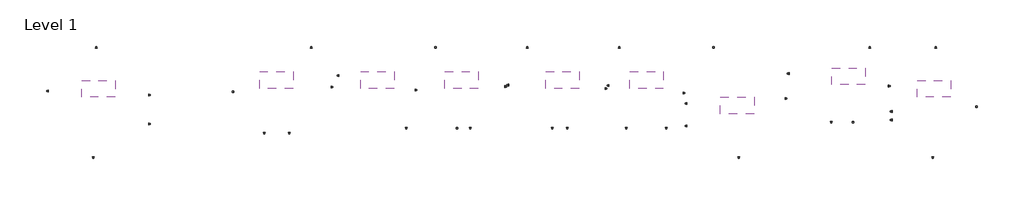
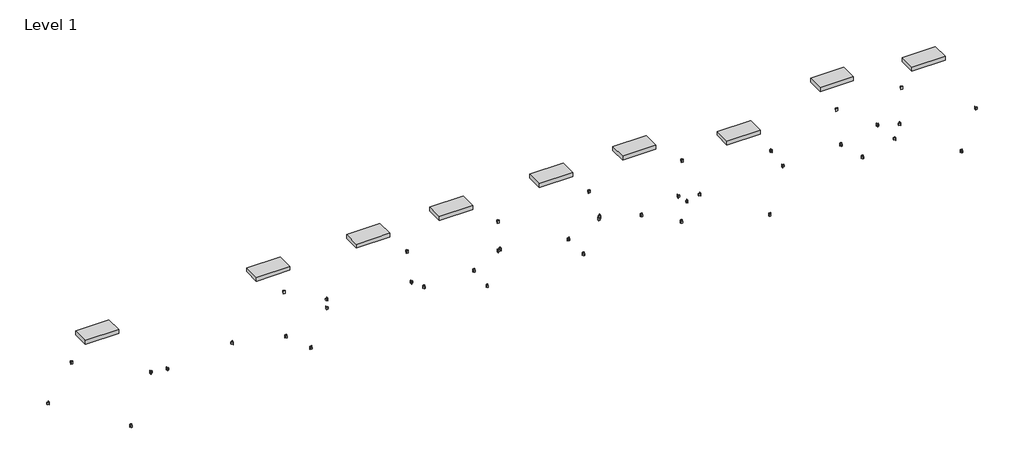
# One storey: 33 proxies, 9 light fixtures, 9 switching devices.
"""IFC4 building model written with IfcOpenShell, lengths in millimetres."""

from ifc_helpers import new_model, si_unit, origin, place, context, project, spatial, transform, mapped, element, save
from components import duplex_receptacle_standard_10251bba, troffer_corner_insert_2x4_2lamp_ce2b6327

model = new_model("IFC4")

# Units and contexts
model_context = context("Model", 3, world=origin())
ifc_project = project(units=[si_unit("LENGTHUNIT", "METRE", prefix="MILLI")], contexts=[model_context])

# Site, building, storey
site = spatial("IfcSite", under=ifc_project)
building = spatial("IfcBuilding", under=site)
storey = spatial("IfcBuildingStorey", under=building, Name="Level 1", Elevation=0.0)

# Proxies
placement = place(None, origin())
duplex_receptacle_standard_shape = duplex_receptacle_standard_10251bba(model_context)
element("IfcBuildingElementProxy", 1, Name="Duplex Receptacle : Standard", ObjectType="Duplex Receptacle : Standard", at=placement, inside=storey, context=model_context, shape_type="MappedRepresentation", body=[
    mapped(duplex_receptacle_standard_shape, transform((-26841.405561, 10083.9795737, 457.2), x_axis=(0.0, 1.0, 0.0), y_axis=(0.0, 0.0, 1.0), z_axis=(1.0, 0.0, 0.0))),
])
element("IfcBuildingElementProxy", 2, Name="Duplex Receptacle : Standard", ObjectType="Duplex Receptacle : Standard", at=placement, inside=storey, context=model_context, shape_type="MappedRepresentation", body=[
    mapped(duplex_receptacle_standard_shape, transform((-25204.9666385, 7694.2963778, 457.2), x_axis=(-1.0, 0.0, 0.0), y_axis=(0.0, 0.0, 1.0), z_axis=(0.0, 1.0, 0.0))),
])
element("IfcBuildingElementProxy", 3, Name="Duplex Receptacle : Standard", ObjectType="Duplex Receptacle : Standard", at=placement, inside=storey, context=model_context, shape_type="MappedRepresentation", body=[
    mapped(duplex_receptacle_standard_shape, transform((-23188.568061, 9940.7759008, 457.2), x_axis=(0.0, -1.0, 0.0), y_axis=(0.0, 0.0, 1.0), z_axis=(-1.0, 0.0, 0.0))),
])
element("IfcBuildingElementProxy", 4, Name="Duplex Receptacle : Standard", ObjectType="Duplex Receptacle : Standard", at=placement, inside=storey, context=model_context, shape_type="MappedRepresentation", body=[
    mapped(duplex_receptacle_standard_shape, transform((-25090.4037002, 11651.9338778, 457.2), x_axis=(1.0, 0.0, 0.0), y_axis=(0.0, 0.0, 1.0), z_axis=(0.0, -1.0, 0.0))),
])
element("IfcBuildingElementProxy", 5, Name="Duplex Receptacle : Standard", ObjectType="Duplex Receptacle : Standard", at=placement, inside=storey, context=model_context, shape_type="MappedRepresentation", body=[
    mapped(duplex_receptacle_standard_shape, transform((-20121.518061, 10059.969048, 457.2), x_axis=(0.0, 1.0, 0.0), y_axis=(0.0, 0.0, 1.0), z_axis=(1.0, 0.0, 0.0))),
])
element("IfcBuildingElementProxy", 6, Name="Duplex Receptacle : Standard", ObjectType="Duplex Receptacle : Standard", at=placement, inside=storey, context=model_context, shape_type="MappedRepresentation", body=[
    mapped(duplex_receptacle_standard_shape, transform((-18097.4089577, 8586.4713778, 457.2), x_axis=(-1.0, 0.0, 0.0), y_axis=(0.0, 0.0, 1.0), z_axis=(0.0, 1.0, 0.0))),
])
element("IfcBuildingElementProxy", 7, Name="Duplex Receptacle : Standard", ObjectType="Duplex Receptacle : Standard", at=placement, inside=storey, context=model_context, shape_type="MappedRepresentation", body=[
    mapped(duplex_receptacle_standard_shape, transform((-16586.155561, 10230.4172196, 457.2), x_axis=(0.0, -1.0, 0.0), y_axis=(0.0, 0.0, 1.0), z_axis=(-1.0, 0.0, 0.0))),
])
element("IfcBuildingElementProxy", 8, Name="Duplex Receptacle : Standard", ObjectType="Duplex Receptacle : Standard", at=placement, inside=storey, context=model_context, shape_type="MappedRepresentation", body=[
    mapped(duplex_receptacle_standard_shape, transform((-17301.9841568, 11651.9338778, 457.2), x_axis=(1.0, 0.0, 0.0), y_axis=(0.0, 0.0, 1.0), z_axis=(0.0, -1.0, 0.0))),
])
element("IfcBuildingElementProxy", 9, Name="Duplex Receptacle : Standard", ObjectType="Duplex Receptacle : Standard", at=placement, inside=storey, context=model_context, shape_type="MappedRepresentation", body=[
    mapped(duplex_receptacle_standard_shape, transform((-16309.930561, 10651.0789037, 457.2), x_axis=(0.0, 1.0, 0.0), y_axis=(0.0, 0.0, 1.0), z_axis=(1.0, 0.0, 0.0))),
])
element("IfcBuildingElementProxy", 10, Name="Duplex Receptacle : Standard", ObjectType="Duplex Receptacle : Standard", at=placement, inside=storey, context=model_context, shape_type="MappedRepresentation", body=[
    mapped(duplex_receptacle_standard_shape, transform((-13539.743061, 10124.0535866, 457.2), x_axis=(0.0, -1.0, 0.0), y_axis=(0.0, 0.0, 1.0), z_axis=(-1.0, 0.0, 0.0))),
])
element("IfcBuildingElementProxy", 11, Name="Duplex Receptacle : Standard", ObjectType="Duplex Receptacle : Standard", at=placement, inside=storey, context=model_context, shape_type="MappedRepresentation", body=[
    mapped(duplex_receptacle_standard_shape, transform((-12806.5245051, 11651.9338778, 457.2), x_axis=(1.0, 0.0, 0.0), y_axis=(0.0, 0.0, 1.0), z_axis=(0.0, -1.0, 0.0))),
])
element("IfcBuildingElementProxy", 12, Name="Duplex Receptacle : Standard", ObjectType="Duplex Receptacle : Standard", at=placement, inside=storey, context=model_context, shape_type="MappedRepresentation", body=[
    mapped(duplex_receptacle_standard_shape, transform((-10286.955561, 10256.7605197, 457.2), x_axis=(0.0, -1.0, 0.0), y_axis=(0.0, 0.0, 1.0), z_axis=(-1.0, 0.0, 0.0))),
])
element("IfcBuildingElementProxy", 13, Name="Duplex Receptacle : Standard", ObjectType="Duplex Receptacle : Standard", at=placement, inside=storey, context=model_context, shape_type="MappedRepresentation", body=[
    mapped(duplex_receptacle_standard_shape, transform((-11548.8226825, 8761.0963778, 457.2), x_axis=(-1.0, 0.0, 0.0), y_axis=(0.0, 0.0, 1.0), z_axis=(0.0, 1.0, 0.0))),
])
element("IfcBuildingElementProxy", 14, Name="Duplex Receptacle : Standard", ObjectType="Duplex Receptacle : Standard", at=placement, inside=storey, context=model_context, shape_type="MappedRepresentation", body=[
    mapped(duplex_receptacle_standard_shape, transform((-9478.3687644, 11651.9338778, 457.2), x_axis=(1.0, 0.0, 0.0), y_axis=(0.0, 0.0, 1.0), z_axis=(0.0, -1.0, 0.0))),
])
element("IfcBuildingElementProxy", 15, Name="Duplex Receptacle : Standard", ObjectType="Duplex Receptacle : Standard", at=placement, inside=storey, context=model_context, shape_type="MappedRepresentation", body=[
    mapped(duplex_receptacle_standard_shape, transform((-10163.130561, 10308.2801537, 457.2), x_axis=(0.0, 1.0, 0.0), y_axis=(0.0, 0.0, 1.0), z_axis=(1.0, 0.0, 0.0))),
])
element("IfcBuildingElementProxy", 16, Name="Duplex Receptacle : Standard", ObjectType="Duplex Receptacle : Standard", at=placement, inside=storey, context=model_context, shape_type="MappedRepresentation", body=[
    mapped(duplex_receptacle_standard_shape, transform((-8025.676875, 8761.0963778, 457.2), x_axis=(-1.0, 0.0, 0.0), y_axis=(0.0, 0.0, 1.0), z_axis=(0.0, 1.0, 0.0))),
])
element("IfcBuildingElementProxy", 17, Name="Duplex Receptacle : Standard", ObjectType="Duplex Receptacle : Standard", at=placement, inside=storey, context=model_context, shape_type="MappedRepresentation", body=[
    mapped(duplex_receptacle_standard_shape, transform((-6653.168061, 10183.4292353, 457.2), x_axis=(0.0, -1.0, 0.0), y_axis=(0.0, 0.0, 1.0), z_axis=(-1.0, 0.0, 0.0))),
])
element("IfcBuildingElementProxy", 18, Name="Duplex Receptacle : Standard", ObjectType="Duplex Receptacle : Standard", at=placement, inside=storey, context=model_context, shape_type="MappedRepresentation", body=[
    mapped(duplex_receptacle_standard_shape, transform((-6529.343061, 10292.780883, 457.2), x_axis=(0.0, 1.0, 0.0), y_axis=(0.0, 0.0, 1.0), z_axis=(1.0, 0.0, 0.0))),
])
element("IfcBuildingElementProxy", 19, Name="Duplex Receptacle : Standard", ObjectType="Duplex Receptacle : Standard", at=placement, inside=storey, context=model_context, shape_type="MappedRepresentation", body=[
    mapped(duplex_receptacle_standard_shape, transform((-3835.355561, 10013.3796213, 457.2), x_axis=(0.0, -1.0, 0.0), y_axis=(0.0, 0.0, 1.0), z_axis=(-1.0, 0.0, 0.0))),
])
element("IfcBuildingElementProxy", 20, Name="Duplex Receptacle : Standard", ObjectType="Duplex Receptacle : Standard", at=placement, inside=storey, context=model_context, shape_type="MappedRepresentation", body=[
    mapped(duplex_receptacle_standard_shape, transform((-4440.4941443, 8761.0963778, 457.2), x_axis=(-1.0, 0.0, 0.0), y_axis=(0.0, 0.0, 1.0), z_axis=(0.0, 1.0, 0.0))),
])
element("IfcBuildingElementProxy", 21, Name="Duplex Receptacle : Standard", ObjectType="Duplex Receptacle : Standard", at=placement, inside=storey, context=model_context, shape_type="MappedRepresentation", body=[
    mapped(duplex_receptacle_standard_shape, transform((-6144.9758606, 11651.9338778, 457.2), x_axis=(1.0, 0.0, 0.0), y_axis=(0.0, 0.0, 1.0), z_axis=(0.0, -1.0, 0.0))),
])
element("IfcBuildingElementProxy", 22, Name="Duplex Receptacle : Standard", ObjectType="Duplex Receptacle : Standard", at=placement, inside=storey, context=model_context, shape_type="MappedRepresentation", body=[
    mapped(duplex_receptacle_standard_shape, transform((-3711.530561, 9633.9383857, 457.2), x_axis=(0.0, 1.0, 0.0), y_axis=(0.0, 0.0, 1.0), z_axis=(1.0, 0.0, 0.0))),
])
element("IfcBuildingElementProxy", 23, Name="Duplex Receptacle : Standard", ObjectType="Duplex Receptacle : Standard", at=placement, inside=storey, context=model_context, shape_type="MappedRepresentation", body=[
    mapped(duplex_receptacle_standard_shape, transform((-1821.0264733, 7687.9463778, 457.2), x_axis=(-1.0, 0.0, 0.0), y_axis=(0.0, 0.0, 1.0), z_axis=(0.0, 1.0, 0.0))),
])
element("IfcBuildingElementProxy", 24, Name="Duplex Receptacle : Standard", ObjectType="Duplex Receptacle : Standard", at=placement, inside=storey, context=model_context, shape_type="MappedRepresentation", body=[
    mapped(duplex_receptacle_standard_shape, transform((-2735.7649944, 11651.9338778, 457.2), x_axis=(1.0, 0.0, 0.0), y_axis=(0.0, 0.0, 1.0), z_axis=(0.0, -1.0, 0.0))),
])
element("IfcBuildingElementProxy", 25, Name="Duplex Receptacle : Standard", ObjectType="Duplex Receptacle : Standard", at=placement, inside=storey, context=model_context, shape_type="MappedRepresentation", body=[
    mapped(duplex_receptacle_standard_shape, transform((-128.543061, 9808.1742944, 457.2), x_axis=(0.0, -1.0, 0.0), y_axis=(0.0, 0.0, 1.0), z_axis=(-1.0, 0.0, 0.0))),
])
element("IfcBuildingElementProxy", 26, Name="Duplex Receptacle : Standard", ObjectType="Duplex Receptacle : Standard", at=placement, inside=storey, context=model_context, shape_type="MappedRepresentation", body=[
    mapped(duplex_receptacle_standard_shape, transform((2317.0763601, 8976.9963778, 457.2), x_axis=(-1.0, 0.0, 0.0), y_axis=(0.0, 0.0, 1.0), z_axis=(0.0, 1.0, 0.0))),
])
element("IfcBuildingElementProxy", 27, Name="Duplex Receptacle : Standard", ObjectType="Duplex Receptacle : Standard", at=placement, inside=storey, context=model_context, shape_type="MappedRepresentation", body=[
    mapped(duplex_receptacle_standard_shape, transform((3605.256939, 10265.543555, 457.2), x_axis=(0.0, -1.0, 0.0), y_axis=(0.0, 0.0, 1.0), z_axis=(-1.0, 0.0, 0.0))),
])
element("IfcBuildingElementProxy", 28, Name="Duplex Receptacle : Standard", ObjectType="Duplex Receptacle : Standard", at=placement, inside=storey, context=model_context, shape_type="MappedRepresentation", body=[
    mapped(duplex_receptacle_standard_shape, transform((2926.9020408, 11651.9338778, 457.2), x_axis=(1.0, 0.0, 0.0), y_axis=(0.0, 0.0, 1.0), z_axis=(0.0, -1.0, 0.0))),
])
element("IfcBuildingElementProxy", 29, Name="Duplex Receptacle : Standard", ObjectType="Duplex Receptacle : Standard", at=placement, inside=storey, context=model_context, shape_type="MappedRepresentation", body=[
    mapped(duplex_receptacle_standard_shape, transform((-4.718061, 10722.9128155, 457.2), x_axis=(0.0, 1.0, 0.0), y_axis=(0.0, 0.0, 1.0), z_axis=(1.0, 0.0, 0.0))),
])
element("IfcBuildingElementProxy", 30, Name="Duplex Receptacle : Standard", ObjectType="Duplex Receptacle : Standard", at=placement, inside=storey, context=model_context, shape_type="MappedRepresentation", body=[
    mapped(duplex_receptacle_standard_shape, transform((5310.8304139, 11651.9338778, 457.2), x_axis=(1.0, 0.0, 0.0), y_axis=(0.0, 0.0, 1.0), z_axis=(0.0, -1.0, 0.0))),
])
element("IfcBuildingElementProxy", 31, Name="Duplex Receptacle : Standard", ObjectType="Duplex Receptacle : Standard", at=placement, inside=storey, context=model_context, shape_type="MappedRepresentation", body=[
    mapped(duplex_receptacle_standard_shape, transform((3729.081939, 9342.2021359, 457.2), x_axis=(0.0, 1.0, 0.0), y_axis=(0.0, 0.0, 1.0), z_axis=(1.0, 0.0, 0.0))),
])
element("IfcBuildingElementProxy", 32, Name="Duplex Receptacle : Standard", ObjectType="Duplex Receptacle : Standard", at=placement, inside=storey, context=model_context, shape_type="MappedRepresentation", body=[
    mapped(duplex_receptacle_standard_shape, transform((5201.9329709, 7687.9463778, 457.2), x_axis=(-1.0, 0.0, 0.0), y_axis=(0.0, 0.0, 1.0), z_axis=(0.0, 1.0, 0.0))),
])
element("IfcBuildingElementProxy", 33, Name="Duplex Receptacle : Standard", ObjectType="Duplex Receptacle : Standard", at=placement, inside=storey, context=model_context, shape_type="MappedRepresentation", body=[
    mapped(duplex_receptacle_standard_shape, transform((6772.319439, 9516.4380447, 457.2), x_axis=(0.0, -1.0, 0.0), y_axis=(0.0, 0.0, 1.0), z_axis=(-1.0, 0.0, 0.0))),
])

# Light fixtures
troffer_corner_insert_2x4_2lamp_shape = troffer_corner_insert_2x4_2lamp_ce2b6327(model_context)
element("IfcLightFixture", 34, ObjectType="Troffer Corner Insert : 2x4 2Lamp", at=placement, inside=storey, context=model_context, shape_type="MappedRepresentation", body=[
    mapped(troffer_corner_insert_2x4_2lamp_shape, transform((-5157.743061, 10481.1526278, 0.0), x_axis=(1.0, 0.0, 0.0), y_axis=(0.0, 1.0, 0.0), z_axis=(0.0, 0.0, 1.0))),
])
element("IfcLightFixture", 35, ObjectType="Troffer Corner Insert : 2x4 2Lamp", at=placement, inside=storey, context=model_context, shape_type="MappedRepresentation", body=[
    mapped(troffer_corner_insert_2x4_2lamp_shape, transform((-14911.343061, 10481.1526278, 0.0), x_axis=(1.0, 0.0, 0.0), y_axis=(0.0, 1.0, 0.0), z_axis=(0.0, 0.0, 1.0))),
])
element("IfcLightFixture", 36, ObjectType="Troffer Corner Insert : 2x4 3Lamp", at=placement, inside=storey, context=model_context, shape_type="MappedRepresentation", body=[
    mapped(troffer_corner_insert_2x4_2lamp_shape, transform((-25014.986811, 10166.0338778, 0.0), x_axis=(1.0, 0.0, 0.0), y_axis=(0.0, 1.0, 0.0), z_axis=(0.0, 0.0, 1.0))),
])
element("IfcLightFixture", 37, ObjectType="Troffer Corner Insert : 2x4 3Lamp", at=placement, inside=storey, context=model_context, shape_type="MappedRepresentation", body=[
    mapped(troffer_corner_insert_2x4_2lamp_shape, transform((-18568.943061, 10481.1526278, 0.0), x_axis=(1.0, 0.0, 0.0), y_axis=(0.0, 1.0, 0.0), z_axis=(0.0, 0.0, 1.0))),
])
element("IfcLightFixture", 38, ObjectType="Troffer Corner Insert : 2x4 3Lamp", at=placement, inside=storey, context=model_context, shape_type="MappedRepresentation", body=[
    mapped(troffer_corner_insert_2x4_2lamp_shape, transform((-11863.343061, 10481.1526278, 0.0), x_axis=(1.0, 0.0, 0.0), y_axis=(0.0, 1.0, 0.0), z_axis=(0.0, 0.0, 1.0))),
])
element("IfcLightFixture", 39, ObjectType="Troffer Corner Insert : 2x4 3Lamp", at=placement, inside=storey, context=model_context, shape_type="MappedRepresentation", body=[
    mapped(troffer_corner_insert_2x4_2lamp_shape, transform((-8205.743061, 10481.1526278, 0.0), x_axis=(1.0, 0.0, 0.0), y_axis=(0.0, 1.0, 0.0), z_axis=(0.0, 0.0, 1.0))),
])
element("IfcLightFixture", 40, ObjectType="Troffer Corner Insert : 2x4 3Lamp", at=placement, inside=storey, context=model_context, shape_type="MappedRepresentation", body=[
    mapped(troffer_corner_insert_2x4_2lamp_shape, transform((-1874.793061, 9556.4338778, 0.0), x_axis=(1.0, 0.0, 0.0), y_axis=(0.0, 1.0, 0.0), z_axis=(0.0, 0.0, 1.0))),
])
element("IfcLightFixture", 41, ObjectType="Troffer Corner Insert : 2x4 3Lamp", at=placement, inside=storey, context=model_context, shape_type="MappedRepresentation", body=[
    mapped(troffer_corner_insert_2x4_2lamp_shape, transform((2157.456939, 10619.2651278, 0.0), x_axis=(1.0, 0.0, 0.0), y_axis=(0.0, 1.0, 0.0), z_axis=(0.0, 0.0, 1.0))),
])
element("IfcLightFixture", 42, ObjectType="Troffer Corner Insert : 2x4 3Lamp", at=placement, inside=storey, context=model_context, shape_type="MappedRepresentation", body=[
    mapped(troffer_corner_insert_2x4_2lamp_shape, transform((5250.700689, 10166.0338778, 0.0), x_axis=(1.0, 0.0, 0.0), y_axis=(0.0, 1.0, 0.0), z_axis=(0.0, 0.0, 1.0))),
])

# Switching devices
element("IfcSwitchingDevice", 43, ObjectType="Lighting Switches : Single Pole", at=placement, inside=storey, context=model_context, shape_type="MappedRepresentation", body=[
    mapped(duplex_receptacle_standard_shape, transform((-23188.568061, 8894.146378, 1219.2), x_axis=(0.0, -1.0, 0.0), y_axis=(0.0, 0.0, 1.0), z_axis=(-1.0, 0.0, 0.0))),
])
element("IfcSwitchingDevice", 44, ObjectType="Lighting Switches : Single Pole", at=placement, inside=storey, context=model_context, shape_type="MappedRepresentation", body=[
    mapped(duplex_receptacle_standard_shape, transform((-19012.3138856, 8586.4713778, 1219.2), x_axis=(-1.0, 0.0, 0.0), y_axis=(0.0, 0.0, 1.0), z_axis=(0.0, 1.0, 0.0))),
])
element("IfcSwitchingDevice", 45, ObjectType="Lighting Switches : Single Pole", at=placement, inside=storey, context=model_context, shape_type="MappedRepresentation", body=[
    mapped(duplex_receptacle_standard_shape, transform((-13866.1055563, 8761.0963778, 1219.2), x_axis=(-1.0, 0.0, 0.0), y_axis=(0.0, 0.0, 1.0), z_axis=(0.0, 1.0, 0.0))),
])
element("IfcSwitchingDevice", 46, ObjectType="Lighting Switches : Single Pole", at=placement, inside=storey, context=model_context, shape_type="MappedRepresentation", body=[
    mapped(duplex_receptacle_standard_shape, transform((-12025.9587848, 8761.0963778, 1219.2), x_axis=(-1.0, 0.0, 0.0), y_axis=(0.0, 0.0, 1.0), z_axis=(0.0, 1.0, 0.0))),
])
element("IfcSwitchingDevice", 47, ObjectType="Lighting Switches : Single Pole", at=placement, inside=storey, context=model_context, shape_type="MappedRepresentation", body=[
    mapped(duplex_receptacle_standard_shape, transform((-8571.8718333, 8761.0963778, 1219.2), x_axis=(-1.0, 0.0, 0.0), y_axis=(0.0, 0.0, 1.0), z_axis=(0.0, 1.0, 0.0))),
])
element("IfcSwitchingDevice", 48, ObjectType="Lighting Switches : Single Pole", at=placement, inside=storey, context=model_context, shape_type="MappedRepresentation", body=[
    mapped(duplex_receptacle_standard_shape, transform((-5893.0563899, 8761.0963778, 1219.2), x_axis=(-1.0, 0.0, 0.0), y_axis=(0.0, 0.0, 1.0), z_axis=(0.0, 1.0, 0.0))),
])
element("IfcSwitchingDevice", 49, ObjectType="Lighting Switches : Single Pole", at=placement, inside=storey, context=model_context, shape_type="MappedRepresentation", body=[
    mapped(duplex_receptacle_standard_shape, transform((-3711.530561, 8818.5488233, 1219.2), x_axis=(0.0, 1.0, 0.0), y_axis=(0.0, 0.0, 1.0), z_axis=(1.0, 0.0, 0.0))),
])
element("IfcSwitchingDevice", 50, ObjectType="Lighting Switches : Single Pole", at=placement, inside=storey, context=model_context, shape_type="MappedRepresentation", body=[
    mapped(duplex_receptacle_standard_shape, transform((1533.3262844, 8976.9963778, 1219.2), x_axis=(-1.0, 0.0, 0.0), y_axis=(0.0, 0.0, 1.0), z_axis=(0.0, 1.0, 0.0))),
])
element("IfcSwitchingDevice", 51, ObjectType="Lighting Switches : Single Pole", at=placement, inside=storey, context=model_context, shape_type="MappedRepresentation", body=[
    mapped(duplex_receptacle_standard_shape, transform((3729.081939, 9028.5867447, 1219.2), x_axis=(0.0, 1.0, 0.0), y_axis=(0.0, 0.0, 1.0), z_axis=(1.0, 0.0, 0.0))),
])

save(model, "model.ifc")
